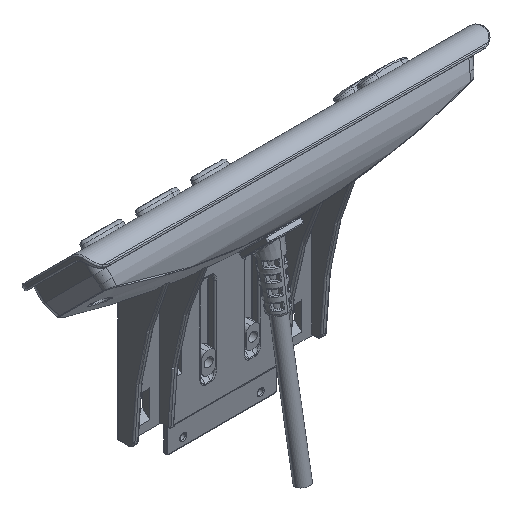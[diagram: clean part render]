
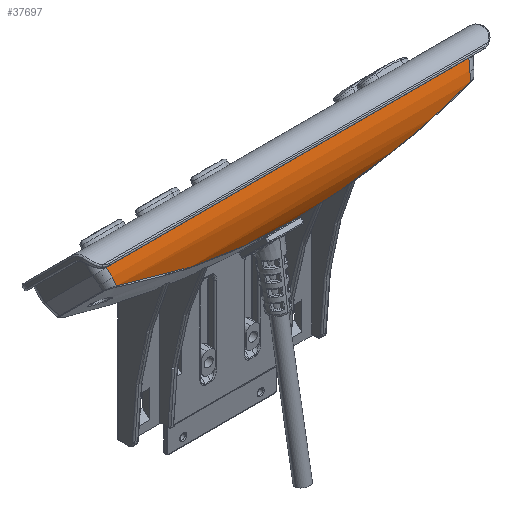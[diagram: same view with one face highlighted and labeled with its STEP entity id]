
A CAD part, isometric view. The second image highlights one B-rep face of the part: STEP entity #37697.
In plain terms, the highlighted cylindrical face has radius 21 mm (diameter 42 mm), a partial arc.
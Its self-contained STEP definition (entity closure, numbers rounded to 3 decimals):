
#6144=CARTESIAN_POINT('',(-33.948,-14.035,
17.202));
#6145=CARTESIAN_POINT('',(-33.023,-14.099,
16.927));
#6146=CARTESIAN_POINT('',(-30.797,-14.236,
16.281));
#6147=CARTESIAN_POINT('',(-26.413,-14.434,
15.029));
#6148=CARTESIAN_POINT('',(-20.723,-14.574,
13.449));
#6149=CARTESIAN_POINT('',(-14.032,-14.58,
11.694));
#6150=CARTESIAN_POINT('',(-7.631,-14.462,
10.115));
#6151=CARTESIAN_POINT('',(0.139,-14.193,
8.409));
#6152=CARTESIAN_POINT('',(6.843,-13.889,7.1));
#6153=CARTESIAN_POINT('',(16.969,-13.438,5.632));
#6154=CARTESIAN_POINT('',(25.83,-13.173,4.947));
#6155=CARTESIAN_POINT('',(37.402,-13.216,5.048));
#6156=CARTESIAN_POINT('',(49.54,-13.717,6.427));
#6157=CARTESIAN_POINT('',(62.15,-14.308,8.836));
#6158=CARTESIAN_POINT('',(72.905,-14.599,11.385));
#6159=CARTESIAN_POINT('',(83.4,-14.572,14.169));
#6160=CARTESIAN_POINT('',(90.415,-14.272,16.176));
#6161=CARTESIAN_POINT('',(93.911,-14.035,17.202));
#9988=CARTESIAN_POINT('',(95.481,-11.896,22.74));
#9989=CARTESIAN_POINT('',(95.52,-11.896,22.74));
#9990=CARTESIAN_POINT('',(95.546,-11.896,22.741));
#9991=CARTESIAN_POINT('',(95.584,-11.898,22.736));
#10004=CARTESIAN_POINT('',(94.697,-13.195,
19.962));
#10005=CARTESIAN_POINT('',(94.794,-13.073,
20.283));
#10006=CARTESIAN_POINT('',(94.991,-12.813,
20.916));
#10007=CARTESIAN_POINT('',(95.279,-12.38,
21.842));
#10008=CARTESIAN_POINT('',(95.485,-12.063,
22.442));
#10009=CARTESIAN_POINT('',(95.584,-11.898,
22.736));
#10026=CARTESIAN_POINT('',(-34.734,-13.195,
19.962));
#10027=CARTESIAN_POINT('',(-34.831,-13.074,
20.28));
#10028=CARTESIAN_POINT('',(-35.026,-12.816,
20.911));
#10029=CARTESIAN_POINT('',(-35.316,-12.383,
21.838));
#10030=CARTESIAN_POINT('',(-35.522,-12.064,
22.44));
#10031=CARTESIAN_POINT('',(-35.621,-11.898,
22.736));
#10033=CARTESIAN_POINT('',(-35.621,-11.898,
22.736));
#10034=CARTESIAN_POINT('',(-35.583,-11.896,
22.741));
#10035=CARTESIAN_POINT('',(-35.557,-11.896,
22.74));
#10036=CARTESIAN_POINT('',(-35.519,-11.896,
22.74));
#10286=DIRECTION('',(1.,0.,0.));
#10287=VECTOR('',#10286,131.);
#10288=CARTESIAN_POINT('',(-35.519,-11.896,
22.74));
#10289=LINE('',#10288,#10287);
#10464=CARTESIAN_POINT('',(-34.734,-13.195,
19.962));
#10465=CARTESIAN_POINT('',(-34.644,-13.309,
19.663));
#10466=CARTESIAN_POINT('',(-34.465,-13.523,
19.06));
#10467=CARTESIAN_POINT('',(-34.203,-13.804,
18.139));
#10468=CARTESIAN_POINT('',(-34.033,-13.963,
17.516));
#10469=CARTESIAN_POINT('',(-33.948,-14.035,
17.202));
#10481=CARTESIAN_POINT('',(93.911,-14.035,
17.202));
#10482=CARTESIAN_POINT('',(93.995,-13.963,
17.516));
#10483=CARTESIAN_POINT('',(94.166,-13.804,
18.139));
#10484=CARTESIAN_POINT('',(94.428,-13.523,
19.06));
#10485=CARTESIAN_POINT('',(94.607,-13.309,
19.664));
#10486=CARTESIAN_POINT('',(94.697,-13.195,
19.962));
#18064=VERTEX_POINT('',#10464);
#18065=VERTEX_POINT('',#10469);
#18066=VERTEX_POINT('',#10481);
#18067=VERTEX_POINT('',#10486);
#20613=VERTEX_POINT('',#10033);
#20614=VERTEX_POINT('',#10036);
#20615=CARTESIAN_POINT('',(95.481,-11.896,
22.74));
#20616=VERTEX_POINT('',#20615);
#20617=VERTEX_POINT('',#9991);
#37677=CARTESIAN_POINT('',(-38.239,6.427,
12.481));
#37678=DIRECTION('',(1.,0.,0.));
#37679=DIRECTION('',(0.,-0.707,-0.707));
#37680=AXIS2_PLACEMENT_3D('',#37677,#37678,#37679);
#37681=CYLINDRICAL_SURFACE('',#37680,21.);
#37683=ORIENTED_EDGE('',*,*,#37682,.T.);
#37685=ORIENTED_EDGE('',*,*,#37684,.T.);
#37686=ORIENTED_EDGE('',*,*,#37652,.T.);
#37687=ORIENTED_EDGE('',*,*,#37668,.F.);
#37689=ORIENTED_EDGE('',*,*,#37688,.F.);
#37690=ORIENTED_EDGE('',*,*,#30314,.F.);
#37692=ORIENTED_EDGE('',*,*,#37691,.F.);
#37694=ORIENTED_EDGE('',*,*,#37693,.T.);
#37695=EDGE_LOOP('',(#37683,#37685,#37686,#37687,#37689,#37690,#37692,#37694));
#37696=FACE_OUTER_BOUND('',#37695,.F.);
#37697=ADVANCED_FACE('',(#37696),#37681,.T.);
#6162=B_SPLINE_CURVE_WITH_KNOTS('',3,(#6144,#6145,#6146,#6147,#6148,#6149,#6150,
#6151,#6152,#6153,#6154,#6155,#6156,#6157,#6158,#6159,#6160,#6161),
.UNSPECIFIED.,.F.,.F.,(4,1,1,1,1,1,1,1,1,1,1,1,1,1,1,4),(0.,0.067,
0.133,0.2,0.267,0.333,0.4,
0.467,0.533,0.6,0.667,0.733,
0.8,0.867,0.933,1.),.UNSPECIFIED.);
#9992=B_SPLINE_CURVE_WITH_KNOTS('',3,(#9988,#9989,#9990,#9991),.UNSPECIFIED.,
.F.,.F.,(4,4),(0.,1.),.UNSPECIFIED.);
#10010=B_SPLINE_CURVE_WITH_KNOTS('',3,(#10004,#10005,#10006,#10007,#10008,
#10009),.UNSPECIFIED.,.F.,.F.,(4,1,1,4),(0.,0.333,
0.667,1.),.UNSPECIFIED.);
#10032=B_SPLINE_CURVE_WITH_KNOTS('',3,(#10026,#10027,#10028,#10029,#10030,
#10031),.UNSPECIFIED.,.F.,.F.,(4,1,1,4),(0.,0.333,
0.667,1.),.UNSPECIFIED.);
#10037=B_SPLINE_CURVE_WITH_KNOTS('',3,(#10033,#10034,#10035,#10036),
.UNSPECIFIED.,.F.,.F.,(4,4),(0.,1.),.UNSPECIFIED.);
#10470=B_SPLINE_CURVE_WITH_KNOTS('',3,(#10464,#10465,#10466,#10467,#10468,
#10469),.UNSPECIFIED.,.F.,.F.,(4,1,1,4),(0.,0.333,
0.667,1.),.UNSPECIFIED.);
#10487=B_SPLINE_CURVE_WITH_KNOTS('',3,(#10481,#10482,#10483,#10484,#10485,
#10486),.UNSPECIFIED.,.F.,.F.,(4,1,1,4),(0.,0.333,
0.667,1.),.UNSPECIFIED.);
#30314=EDGE_CURVE('',#18065,#18066,#6162,.T.);
#37652=EDGE_CURVE('',#20616,#20617,#9992,.T.);
#37668=EDGE_CURVE('',#18067,#20617,#10010,.T.);
#37682=EDGE_CURVE('',#20613,#20614,#10037,.T.);
#37684=EDGE_CURVE('',#20614,#20616,#10289,.T.);
#37688=EDGE_CURVE('',#18066,#18067,#10487,.T.);
#37691=EDGE_CURVE('',#18064,#18065,#10470,.T.);
#37693=EDGE_CURVE('',#18064,#20613,#10032,.T.);
